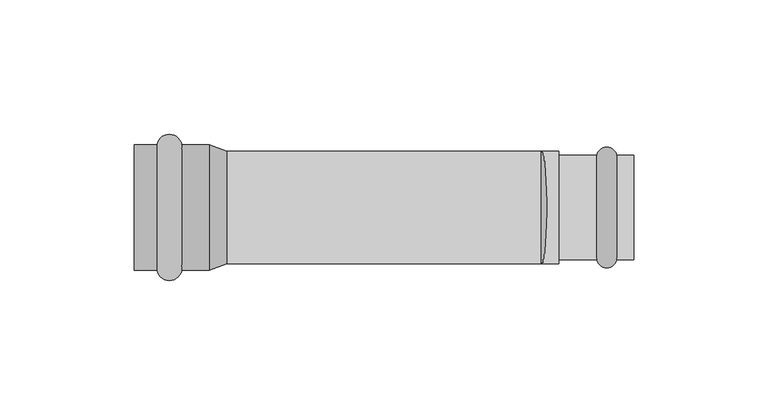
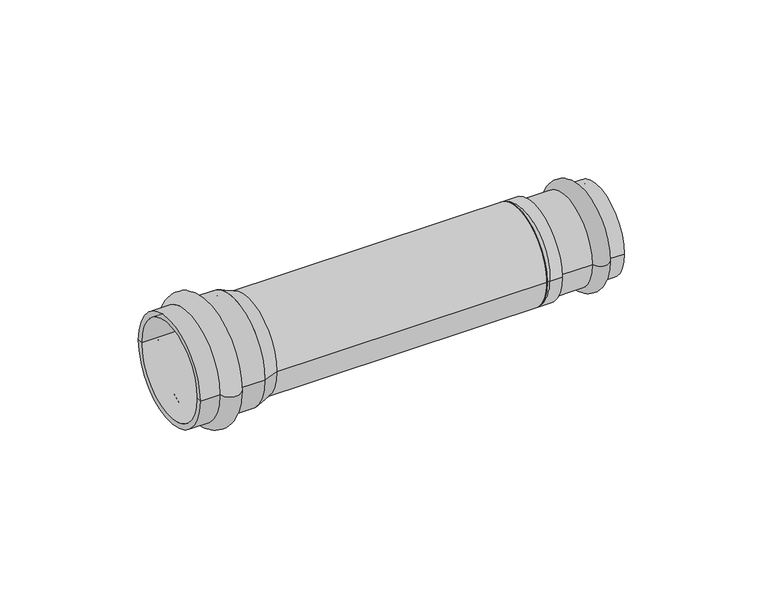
"""IFC4 building model written with IfcOpenShell, lengths in millimetres: pipe fitting geometry, VALTEC_VTi.903.I_Соединитель прямой нержавеющая сталь : VTi.903.I."""

import ifcopenshell
import ifcopenshell.guid

model = None  # the IFC model being written
_history = None  # IfcOwnerHistory: only IFC2X3 demands one
_inside = {}  # id of a spatial element -> (the spatial element, [elements in it])
_under = {}  # id of a project, library or spatial element -> (it, [spatial elements below it])
_declared = {}  # id of a project -> (the project, [libraries it declares])
_typed = {}  # id of a type object -> (the type object, [elements of that type])
_made_of = {}  # id of a material, layer set ... -> (it, [elements and type objects made of it])


def new_model(schema):
    """Start an empty IFC model of exactly this schema.

    Asked for "IFC4X3", IfcOpenShell would pick the latest addendum, in which some entities
    have other attributes; the version numbers below select the first issue.
    IFC2X3 requires an IfcOwnerHistory on every rooted entity: one is made here for all.
    """
    global model, _history
    if schema == "IFC4X3":
        model = ifcopenshell.file(schema_version=(4, 3, 0, 0))
    else:
        model = ifcopenshell.file(schema=schema)
    _inside.clear()
    _under.clear()
    _declared.clear()
    _typed.clear()
    _made_of.clear()
    _history = None
    if model.schema == "IFC2X3":
        org = make("IfcOrganization", Name="unknown")
        user = make(
            "IfcPersonAndOrganization",
            ThePerson=make("IfcPerson", FamilyName="unknown"),
            TheOrganization=org,
        )
        app = make(
            "IfcApplication",
            ApplicationDeveloper=org,
            Version="unknown",
            ApplicationFullName="unknown",
            ApplicationIdentifier="unknown",
        )
        _history = make(
            "IfcOwnerHistory",
            OwningUser=user,
            OwningApplication=app,
            ChangeAction="ADDED",
            CreationDate=0,
        )
    return model


def make(cls, **values):
    """One entity of the class cls with the attributes given. An attribute that is None is left unset."""
    return model.create_entity(
        cls, **{name: value for name, value in values.items() if value is not None}
    )


def rooted(cls, **values):
    """An entity with a GlobalId (a new one), such as an element, a storey or a relation."""
    return make(cls, GlobalId=ifcopenshell.guid.new(), OwnerHistory=_history, **values)


def si_unit(unit_type, name, prefix=None):
    """IfcSIUnit, for example si_unit("LENGTHUNIT", "METRE", prefix="MILLI")."""
    return make("IfcSIUnit", UnitType=unit_type, Prefix=prefix, Name=name)


def assignment(units):
    """IfcUnitAssignment: the units of a project."""
    return None if units is None else make("IfcUnitAssignment", Units=units)


def point(xyz):
    """IfcCartesianPoint."""
    return None if xyz is None else make("IfcCartesianPoint", Coordinates=xyz)


def direction(xyz):
    """IfcDirection."""
    return None if xyz is None else make("IfcDirection", DirectionRatios=xyz)


def frame(location, z_axis=None, x_axis=None):
    """IfcAxis2Placement3D, a coordinate frame: its origin and axes. An axis left out is left unset."""
    return make(
        "IfcAxis2Placement3D",
        Location=point(location),
        Axis=direction(z_axis),
        RefDirection=direction(x_axis),
    )


def frame_2d(location, x_axis=None):
    """IfcAxis2Placement2D, a coordinate frame in the plane: its origin and x axis."""
    return make(
        "IfcAxis2Placement2D", Location=point(location), RefDirection=direction(x_axis)
    )


def origin():
    """The frame at (0, 0, 0) with its axes left unset."""
    return frame((0.0, 0.0, 0.0))


def origin_2d():
    """The frame at (0, 0) in the plane with its x axis left unset."""
    return frame_2d((0.0, 0.0))


def place(relative_to, where):
    """IfcLocalPlacement: puts the frame where relative to a parent placement (None: the world)."""
    return make(
        "IfcLocalPlacement", PlacementRelTo=relative_to, RelativePlacement=where
    )


def context(
    kind, dimensions, precision=None, world=None, true_north=None, identifier=None
):
    """IfcGeometricRepresentationContext, for example the 3D "Model" context."""
    return make(
        "IfcGeometricRepresentationContext",
        ContextIdentifier=identifier,
        ContextType=kind,
        CoordinateSpaceDimension=dimensions,
        Precision=precision,
        WorldCoordinateSystem=world,
        TrueNorth=true_north,
    )


def project(units=None, contexts=None):
    """IfcProject with its units and contexts."""
    return rooted(
        "IfcProject",
        Name="project",
        RepresentationContexts=contexts,
        UnitsInContext=assignment(units),
    )


def spatial(cls, under=None, at=None, **own):
    """A site, building, storey or space (cls), placed at a placement, below another one or the project."""
    s = rooted(cls, ObjectPlacement=at, **own)
    if under is not None:
        _under.setdefault(under.id(), (under, []))[1].append(s)
    return s


def polyline(points):
    """IfcPolyline through the points."""
    return make("IfcPolyline", Points=[point(p) for p in points])


def circle_curve(where, radius):
    """IfcCircle in the frame where."""
    return make("IfcCircle", Position=where, Radius=radius)


def ellipse_curve(where, semi_axis1, semi_axis2):
    """IfcEllipse in the frame where."""
    return make(
        "IfcEllipse", Position=where, SemiAxis1=semi_axis1, SemiAxis2=semi_axis2
    )


def trimmed(basis, trim1, trim2, sense, master):
    """IfcTrimmedCurve: the piece of a basis curve between two trims."""
    return make(
        "IfcTrimmedCurve",
        BasisCurve=basis,
        Trim1=trim1,
        Trim2=trim2,
        SenseAgreement=sense,
        MasterRepresentation=master,
    )


def segment(curve, same_sense, transition):
    """IfcCompositeCurveSegment."""
    return make(
        "IfcCompositeCurveSegment",
        Transition=transition,
        SameSense=same_sense,
        ParentCurve=curve,
    )


def composite_curve(segments, self_intersect=None):
    """IfcCompositeCurve: segments joined end to end."""
    return make("IfcCompositeCurve", Segments=segments, SelfIntersect=self_intersect)


def outline(outer, holes=None, kind="AREA"):
    """IfcArbitraryClosedProfileDef: a profile drawn as a closed curve; with holes, ...WithVoids."""
    if holes is None:
        return make("IfcArbitraryClosedProfileDef", ProfileType=kind, OuterCurve=outer)
    return make(
        "IfcArbitraryProfileDefWithVoids",
        ProfileType=kind,
        OuterCurve=outer,
        InnerCurves=holes,
    )


def extrude(swept, where, along, depth):
    """IfcExtrudedAreaSolid: the profile swept, set in the frame where, extruded along a direction by depth."""
    return make(
        "IfcExtrudedAreaSolid",
        SweptArea=swept,
        Position=where,
        ExtrudedDirection=direction(along),
        Depth=depth,
    )


def shape(context_of_items, identifier, shape_type, items):
    """IfcShapeRepresentation: the items that make up one representation, for example the "Body"."""
    return make(
        "IfcShapeRepresentation",
        ContextOfItems=context_of_items,
        RepresentationIdentifier=identifier,
        RepresentationType=shape_type,
        Items=items,
    )


def source(mapping_origin, context_of_items, identifier, shape_type, items):
    """IfcRepresentationMap: a shape defined once, which mapped items show again and again."""
    return make(
        "IfcRepresentationMap",
        MappingOrigin=mapping_origin,
        MappedRepresentation=shape(context_of_items, identifier, shape_type, items),
    )


def transform(
    local_origin,
    x_axis=None,
    y_axis=None,
    z_axis=None,
    scale=None,
    scale2=None,
    scale3=None,
    uniform=True,
):
    """IfcCartesianTransformationOperator3D, or its non-uniform kind. x_axis, y_axis, z_axis: its Axis1, 2, 3."""
    if uniform:
        return make(
            "IfcCartesianTransformationOperator3D",
            Axis1=direction(x_axis),
            Axis2=direction(y_axis),
            LocalOrigin=point(local_origin),
            Scale=scale,
            Axis3=direction(z_axis),
        )
    return make(
        "IfcCartesianTransformationOperator3DnonUniform",
        Axis1=direction(x_axis),
        Axis2=direction(y_axis),
        LocalOrigin=point(local_origin),
        Scale=scale,
        Axis3=direction(z_axis),
        Scale2=scale2,
        Scale3=scale3,
    )


def mapped(mapping_source, mapping_target):
    """IfcMappedItem: shows the shape of a source again, moved by a transform."""
    return make(
        "IfcMappedItem", MappingSource=mapping_source, MappingTarget=mapping_target
    )


def made_of(thing, what):
    """Note that an element or type object is made of a material, layer set ...; save() writes the relation."""
    if what is not None:
        _made_of.setdefault(what.id(), (what, []))[1].append(thing)
    return thing


def element(
    cls,
    number,
    at=None,
    inside=None,
    cuts=None,
    type_object=None,
    material=None,
    context=None,
    identifier="Body",
    shape_type=None,
    held_by="IfcProductDefinitionShape",
    body=None,
    shapes=None,
    **own,
):
    """One element of the class cls, such as IfcWall. Its Tag is "e" and its number.

    at: its placement. inside: the storey or other place that contains it. cuts: it is an
    opening in that element (IfcRelVoidsElement). A single representation is given by context,
    identifier, shape_type and body (its items); several are given by shapes. held_by: the class
    of the entity that holds the representations. save() writes the other relations.
    """
    e = rooted(cls, Tag="e%d" % number, ObjectPlacement=at, **own)
    if body is not None:
        shapes = [shape(context, identifier, shape_type, body)]
    if shapes is not None:
        e.Representation = make(held_by, Representations=shapes)
    if inside is not None:
        _inside.setdefault(inside.id(), (inside, []))[1].append(e)
    if cuts is not None:
        rooted(
            "IfcRelVoidsElement", RelatingBuildingElement=cuts, RelatedOpeningElement=e
        )
    if type_object is not None:
        _typed.setdefault(type_object.id(), (type_object, []))[1].append(e)
    return made_of(e, material)


def aggregate(whole, parts):
    """IfcRelAggregates: a whole, such as a stair, and the parts it consists of."""
    return rooted("IfcRelAggregates", RelatingObject=whole, RelatedObjects=parts)


def save(model, path):
    """Write the relations noted so far, then the file.

    IfcRelAggregates (storeys below a building ...), IfcRelContainedInSpatialStructure (elements
    in a storey), IfcRelDefinesByType, IfcRelAssociatesMaterial and IfcRelDeclares: one each for
    every whole, place, type object, material and project.
    """
    for whole, parts in _under.values():
        aggregate(whole, parts)
    for where, things in _inside.values():
        rooted(
            "IfcRelContainedInSpatialStructure",
            RelatedElements=things,
            RelatingStructure=where,
        )
    for kind, things in _typed.values():
        rooted("IfcRelDefinesByType", RelatedObjects=things, RelatingType=kind)
    for what, things in _made_of.values():
        rooted("IfcRelAssociatesMaterial", RelatedObjects=things, RelatingMaterial=what)
    for by, libraries in _declared.values():
        rooted("IfcRelDeclares", RelatingContext=by, RelatedDefinitions=libraries)
    model.write(path)


def plane_surface(at):
    """IfcPlane: the flat surface through the origin of the frame at, square to its z axis."""
    return make("IfcPlane", Position=at)


def cylinder_surface(at, radius):
    """IfcCylindricalSurface: all points at the distance radius from the z axis of the frame at."""
    return make("IfcCylindricalSurface", Position=at, Radius=radius)


def revolved_surface(curve, axis_point, axis_direction):
    """IfcSurfaceOfRevolution: the curve turned about the line through axis_point along axis_direction."""
    return make(
        "IfcSurfaceOfRevolution",
        SweptCurve=make("IfcArbitraryOpenProfileDef", ProfileType="CURVE", Curve=curve),
        AxisPosition=make("IfcAxis1Placement", Location=point(axis_point), Axis=direction(axis_direction)),
    )


def advanced_brep(points, edges, surfaces, faces):
    """IfcAdvancedBrep: a solid bounded by faces that lie on surfaces and meet in shared edges.

    An edge is (start, end): straight between two places in points (the first is 0);
    or (start, end, curve); or (start, end, curve, False) where it runs against its curve.
    A face is (place in surfaces, loops), or (place, loops, False) where it looks against
    its surface's normal. A loop lists edges by number (the first is 1), with a minus sign
    where the edge is run from its end to its start. The first loop is the outer one.
    """
    corners = [point(p) for p in points]
    vertices = [make("IfcVertexPoint", VertexGeometry=c) for c in corners]
    made = []
    for start, end, *more in edges:
        made.append(
            make(
                "IfcEdgeCurve",
                EdgeStart=vertices[start],
                EdgeEnd=vertices[end],
                EdgeGeometry=more[0] if more else make("IfcPolyline", Points=[corners[start], corners[end]]),
                SameSense=more[1] if len(more) > 1 else True,
            )
        )
    hull = []
    for where, loops, *sense in faces:
        bounds = []
        for j, loop in enumerate(loops):
            ring = [make("IfcOrientedEdge", EdgeElement=made[abs(k) - 1], Orientation=k > 0) for k in loop]
            bounds.append(
                make(
                    "IfcFaceOuterBound" if j == 0 else "IfcFaceBound",
                    Bound=make("IfcEdgeLoop", EdgeList=ring),
                    Orientation=True,
                )
            )
        hull.append(make("IfcAdvancedFace", Bounds=bounds, FaceSurface=surfaces[where], SameSense=sense[0] if sense else True))
    return make("IfcAdvancedBrep", Outer=make("IfcClosedShell", CfsFaces=hull))


def pipe_fitting_6e1f4d2b(model_context):
    return source(origin(), model_context, "Body", "SolidModel", [
        advanced_brep(
        [(179.6432371, 19.4, 0.0), (179.6432371, -19.4, 0.0), (172.2567629, -19.4, 0.0), (172.2567629, 19.4, 0.0), (186.0, 19.4, 0.0), (186.0, -19.4, 0.0), (186.0, 17.5, 0.0), (186.0, -17.5, 0.0), (158.1, 17.5, 0.0), (158.1, -17.5, 0.0), (158.1, 19.4, 0.0), (158.1, -19.4, 0.0)],
        [
            (0, 1, circle_curve(frame((179.6432371, 0.0, 0.0), z_axis=(-1.0, 0.0, 0.0), x_axis=(0.0, -1.0, 0.0)), 19.4)),
            (1, 2, circle_curve(frame((175.95, -18.75, 0.0), z_axis=(0.0, 0.0, -1.0), x_axis=(-1.0, 0.0, 0.0)), 3.75)),
            (2, 3, circle_curve(frame((172.2567629, 0.0, 0.0), z_axis=(1.0, 0.0, 0.0), x_axis=(0.0, -1.0, 0.0)), 19.4)),
            (3, 0, circle_curve(frame((175.95, 18.75, 0.0), z_axis=(0.0, 0.0, -1.0), x_axis=(-1.0, 0.0, 0.0)), 3.75)),
            (1, 0, circle_curve(frame((179.6432371, 0.0, 0.0), z_axis=(-1.0, 0.0, 0.0), x_axis=(0.0, -1.0, 0.0)), 19.4)),
            (3, 2, circle_curve(frame((172.2567629, 0.0, 0.0), z_axis=(1.0, 0.0, 0.0), x_axis=(0.0, -1.0, 0.0)), 19.4)),
            (4, 5, circle_curve(frame((186.0, 0.0, 0.0), z_axis=(-1.0, 0.0, 0.0), x_axis=(0.0, -1.0, 0.0)), 19.4)),
            (5, 1),
            (0, 4),
            (5, 4, circle_curve(frame((186.0, 0.0, 0.0), z_axis=(-1.0, 0.0, 0.0), x_axis=(0.0, -1.0, 0.0)), 19.4)),
            (6, 7, circle_curve(frame((186.0, 0.0, 0.0), z_axis=(-1.0, 0.0, 0.0), x_axis=(0.0, -1.0, 0.0)), 17.5)),
            (7, 5),
            (4, 6),
            (7, 6, circle_curve(frame((186.0, 0.0, 0.0), z_axis=(-1.0, 0.0, 0.0), x_axis=(0.0, -1.0, 0.0)), 17.5)),
            (8, 9, circle_curve(frame((158.1, 0.0, 0.0), z_axis=(-1.0, 0.0, 0.0), x_axis=(0.0, -1.0, 0.0)), 17.5)),
            (9, 7),
            (6, 8),
            (9, 8, circle_curve(frame((158.1, 0.0, 0.0), z_axis=(-1.0, 0.0, 0.0), x_axis=(0.0, -1.0, 0.0)), 17.5)),
            (10, 11, circle_curve(frame((158.1, 0.0, 0.0), z_axis=(-1.0, 0.0, 0.0), x_axis=(0.0, -1.0, 0.0)), 19.4)),
            (11, 9),
            (8, 10),
            (11, 10, circle_curve(frame((158.1, 0.0, 0.0), z_axis=(-1.0, 0.0, 0.0), x_axis=(0.0, -1.0, 0.0)), 19.4)),
            (2, 11),
            (10, 3),
        ],
        [
            revolved_surface(trimmed(ellipse_curve(frame((175.95, -18.75, 0.0), z_axis=(0.0, 0.0, 1.0), x_axis=(-1.0, 0.0, 0.0)), 3.75, 3.75), [point((172.2567629, -19.4, 0.0))], [point((179.6432371, -19.4, 0.0))], True, "CARTESIAN"), (189.5364426, 0.0, 0.0), (1.0, 0.0, 0.0)),
            cylinder_surface(frame((189.5364426, 0.0, 0.0), z_axis=(1.0, 0.0, 0.0), x_axis=(0.0, -1.0, 0.0)), 19.4),
            plane_surface(frame((186.0, 0.0, 0.0), z_axis=(1.0, 0.0, 0.0), x_axis=(0.0, -1.0, 0.0))),
            revolved_surface(polyline([(186.0, -17.5, 0.0), (158.1, -17.5, 0.0)]), (189.5364426, 0.0, 0.0), (1.0, 0.0, 0.0)),
            plane_surface(frame((158.1, 0.0, 0.0), z_axis=(-1.0, 0.0, 0.0), x_axis=(0.0, -1.0, 0.0))),
        ],
        [
            (0, [[1, 2, 3, 4]]),
            (0, [[5, -4, 6, -2]]),
            (1, [[7, 8, -1, 9]]),
            (1, [[10, -9, -5, -8]]),
            (2, [[11, 12, -7, 13]]),
            (2, [[14, -13, -10, -12]]),
            (3, [[15, 16, -11, 17]]),
            (3, [[18, -17, -14, -16]]),
            (4, [[19, 20, -15, 21]]),
            (4, [[22, -21, -18, -20]]),
            (1, [[-3, 23, -19, 24]]),
            (1, [[-6, -24, -22, -23]]),
        ],
    ),
        advanced_brep(
        [(8.5535728, -23.35, 0.0), (8.5535728, 23.35, 0.0), (17.6464272, 23.35, 0.0), (17.6464272, -23.35, 0.0), (0.0, -23.35, 0.0), (0.0, 23.35, 0.0), (0.0, -21.0, 0.0), (0.0, 21.0, 0.0), (27.9, -21.0, 0.0), (27.9, 21.0, 0.0), (27.9, -23.35, 0.0), (27.9, 23.35, 0.0)],
        [
            (0, 1, circle_curve(frame((8.5535728, 0.0, 0.0), z_axis=(1.0, 0.0, 0.0), x_axis=(0.0, 1.0, 0.0)), 23.35)),
            (1, 2, circle_curve(frame((13.1, 22.65, 0.0), z_axis=(0.0, 0.0, -1.0), x_axis=(1.0, 0.0, 0.0)), 4.6)),
            (2, 3, circle_curve(frame((17.6464272, 0.0, 0.0), z_axis=(-1.0, 0.0, 0.0), x_axis=(0.0, 1.0, 0.0)), 23.35)),
            (3, 0, circle_curve(frame((13.1, -22.65, 0.0), z_axis=(0.0, 0.0, -1.0), x_axis=(1.0, 0.0, 0.0)), 4.6)),
            (1, 0, circle_curve(frame((8.5535728, 0.0, 0.0), z_axis=(1.0, 0.0, 0.0), x_axis=(0.0, 1.0, 0.0)), 23.35)),
            (3, 2, circle_curve(frame((17.6464272, 0.0, 0.0), z_axis=(-1.0, 0.0, 0.0), x_axis=(0.0, 1.0, 0.0)), 23.35)),
            (4, 5, circle_curve(frame((0.0, 0.0, 0.0), z_axis=(1.0, 0.0, 0.0), x_axis=(0.0, 1.0, 0.0)), 23.35)),
            (5, 1),
            (0, 4),
            (5, 4, circle_curve(frame((0.0, 0.0, 0.0), z_axis=(1.0, 0.0, 0.0), x_axis=(0.0, 1.0, 0.0)), 23.35)),
            (6, 7, circle_curve(frame((0.0, 0.0, 0.0), z_axis=(1.0, 0.0, 0.0), x_axis=(0.0, 1.0, 0.0)), 21.0)),
            (7, 5),
            (4, 6),
            (7, 6, circle_curve(frame((0.0, 0.0, 0.0), z_axis=(1.0, 0.0, 0.0), x_axis=(0.0, 1.0, 0.0)), 21.0)),
            (8, 9, circle_curve(frame((27.9, 0.0, 0.0), z_axis=(1.0, 0.0, 0.0), x_axis=(0.0, 1.0, 0.0)), 21.0)),
            (9, 7),
            (6, 8),
            (9, 8, circle_curve(frame((27.9, 0.0, 0.0), z_axis=(1.0, 0.0, 0.0), x_axis=(0.0, 1.0, 0.0)), 21.0)),
            (10, 11, circle_curve(frame((27.9, 0.0, 0.0), z_axis=(1.0, 0.0, 0.0), x_axis=(0.0, 1.0, 0.0)), 23.35)),
            (11, 9),
            (8, 10),
            (11, 10, circle_curve(frame((27.9, 0.0, 0.0), z_axis=(1.0, 0.0, 0.0), x_axis=(0.0, 1.0, 0.0)), 23.35)),
            (2, 11),
            (10, 3),
        ],
        [
            revolved_surface(trimmed(ellipse_curve(frame((13.1, 22.65, 0.0), z_axis=(0.0, 0.0, 1.0), x_axis=(1.0, 0.0, 0.0)), 4.6, 4.6), [point((17.6464272, 23.35, 0.0))], [point((8.5535728, 23.35, 0.0))], True, "CARTESIAN"), (-3.5364426, 0.0, 0.0), (-1.0, 0.0, 0.0)),
            cylinder_surface(frame((-3.5364426, 0.0, 0.0), z_axis=(-1.0, 0.0, 0.0), x_axis=(0.0, 1.0, 0.0)), 23.35),
            plane_surface(frame((0.0, 0.0, 0.0), z_axis=(-1.0, 0.0, 0.0), x_axis=(0.0, 1.0, 0.0))),
            revolved_surface(polyline([(0.0, 21.0, 0.0), (27.9, 21.0, 0.0)]), (-3.5364426, 0.0, 0.0), (-1.0, 0.0, 0.0)),
            plane_surface(frame((27.9, 0.0, 0.0), z_axis=(1.0, 0.0, 0.0), x_axis=(0.0, 1.0, 0.0))),
        ],
        [
            (0, [[1, 2, 3, 4]]),
            (0, [[5, -4, 6, -2]]),
            (1, [[7, 8, -1, 9]]),
            (1, [[10, -9, -5, -8]]),
            (2, [[11, 12, -7, 13]]),
            (2, [[14, -13, -10, -12]]),
            (3, [[15, 16, -11, 17]]),
            (3, [[18, -17, -14, -16]]),
            (4, [[19, 20, -15, 21]]),
            (4, [[22, -21, -18, -20]]),
            (1, [[-3, 23, -19, 24]]),
            (1, [[-6, -24, -22, -23]]),
        ],
    ),
        advanced_brep(
        [(27.9, -23.35, 0.0), (27.9, 23.35, 0.0), (34.41, -21.0, 0.0), (34.41, 21.0, 0.0)],
        [
            (0, 1, circle_curve(frame((27.9, 0.0, 0.0), z_axis=(-1.0, 0.0, 0.0), x_axis=(0.0, -1.0, 0.0)), 23.35)),
            (1, 0, circle_curve(frame((27.9, 0.0, 0.0), z_axis=(-1.0, 0.0, 0.0), x_axis=(0.0, 1.0, 0.0)), 23.35)),
            (2, 3, circle_curve(frame((34.41, 0.0, 0.0), z_axis=(1.0, 0.0, 0.0), x_axis=(0.0, 1.0, 0.0)), 21.0)),
            (3, 2, circle_curve(frame((34.41, 0.0, 0.0), z_axis=(1.0, 0.0, 0.0), x_axis=(0.0, -1.0, 0.0)), 21.0)),
            (2, 0),
            (1, 3),
        ],
        [
            plane_surface(frame((27.9, 0.0, 0.0), z_axis=(-1.0, 0.0, 0.0), x_axis=(0.0, 0.0, 1.0))),
            plane_surface(frame((34.41, 0.0, 0.0), z_axis=(1.0, 0.0, 0.0), x_axis=(0.0, 0.0, 1.0))),
            revolved_surface(polyline([(34.41, -21.000000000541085, 0.0), (27.89999999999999, -23.35, 0.0)]), (92.5844681, 0.0, 0.0), (-1.0, 0.0, 0.0)),
            revolved_surface(polyline([(34.41, 21.000000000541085, 0.0), (27.89999999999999, 23.35, 0.0)]), (92.5844681, 0.0, 0.0), (-1.0, 0.0, 0.0)),
        ],
        [
            (0, [[1, 2]]),
            (1, [[3, 4]]),
            (2, [[-3, 5, -2, 6]]),
            (3, [[-4, -6, -1, -5]]),
        ],
    ),
        advanced_brep(
        [(158.1, -19.4, 0.0), (158.1, 19.4, 0.0), (151.59, -21.0, 0.0), (151.59, 21.0, 0.0)],
        [
            (0, 1, circle_curve(frame((158.1, 0.0, 0.0), z_axis=(1.0, 0.0, 0.0), x_axis=(0.0, -1.0, 0.0)), 19.4)),
            (1, 0, circle_curve(frame((158.1, 0.0, 0.0), z_axis=(1.0, 0.0, 0.0), x_axis=(0.0, 1.0, 0.0)), 19.4)),
            (2, 3, circle_curve(frame((151.59, 0.0, 0.0), z_axis=(-1.0, 0.0, 0.0), x_axis=(0.0, 1.0, 0.0)), 21.0)),
            (3, 2, circle_curve(frame((151.59, 0.0, 0.0), z_axis=(-1.0, 0.0, 0.0), x_axis=(0.0, -1.0, 0.0)), 21.0)),
            (3, 1),
            (0, 2),
        ],
        [
            plane_surface(frame((158.1, 0.0, 0.0), z_axis=(1.0, 0.0, 0.0), x_axis=(0.0, 0.0, -1.0))),
            plane_surface(frame((151.59, 0.0, 0.0), z_axis=(-1.0, 0.0, 0.0), x_axis=(0.0, 0.0, -1.0))),
            revolved_surface(polyline([(158.1, -19.400000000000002, 0.0), (151.59, -21.0, 0.0)]), (237.03375, 0.0, 0.0), (-1.0, 0.0, 0.0)),
            revolved_surface(polyline([(158.1, 19.400000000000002, 0.0), (151.59, 21.0, 0.0)]), (237.03375, 0.0, 0.0), (-1.0, 0.0, 0.0)),
        ],
        [
            (0, [[1, 2]]),
            (1, [[3, 4]]),
            (2, [[-4, 5, -1, 6]]),
            (3, [[-3, -6, -2, -5]]),
        ],
    ),
        extrude(outline(composite_curve([segment(trimmed(circle_curve(origin_2d(), 21.0), [point((-21.0, 0.0))], [point((21.0, 0.0))], False, "CARTESIAN"), True, "CONTINUOUS"), segment(trimmed(circle_curve(origin_2d(), 21.0), [point((21.0, 0.0))], [point((-21.0, 0.0))], False, "CARTESIAN"), True, "CONTINUOUS")], self_intersect=False)), frame((27.9, 0.0, 0.0), z_axis=(1.0, 0.0, 0.0), x_axis=(0.0, 1.0, 0.0)), (0.0, 0.0, 1.0), 130.2),
    ])


if __name__ == "__main__":
    model = new_model("IFC4")
    model_context = context("Model", 3, world=origin())
    ifc_project = project(units=[si_unit("LENGTHUNIT", "METRE", prefix="MILLI")], contexts=[model_context])
    site = spatial("IfcSite", under=ifc_project)
    building = spatial("IfcBuilding", under=site)
    placement = place(None, origin())
    pipe_fitting_shape = pipe_fitting_6e1f4d2b(model_context)
    element("IfcPipeFitting", 1, ObjectType="VALTEC_VTi.903.I_Соединитель прямой нержавеющая сталь : VTi.903.I", at=placement, inside=building, context=model_context, shape_type="MappedRepresentation", body=[
        mapped(pipe_fitting_shape, transform((0.0, 0.0, 0.0), x_axis=(1.0, 0.0, 0.0), y_axis=(0.0, 1.0, 0.0), z_axis=(0.0, 0.0, 1.0))),
    ])
    save(model, "model.ifc")
